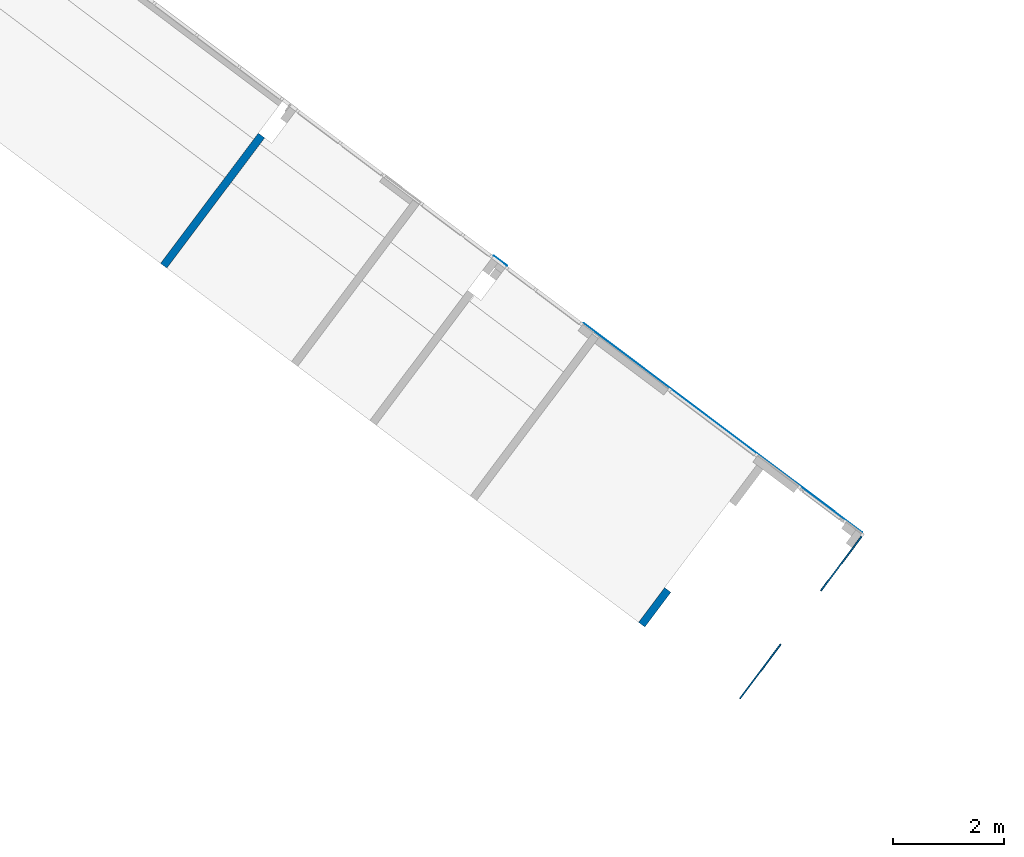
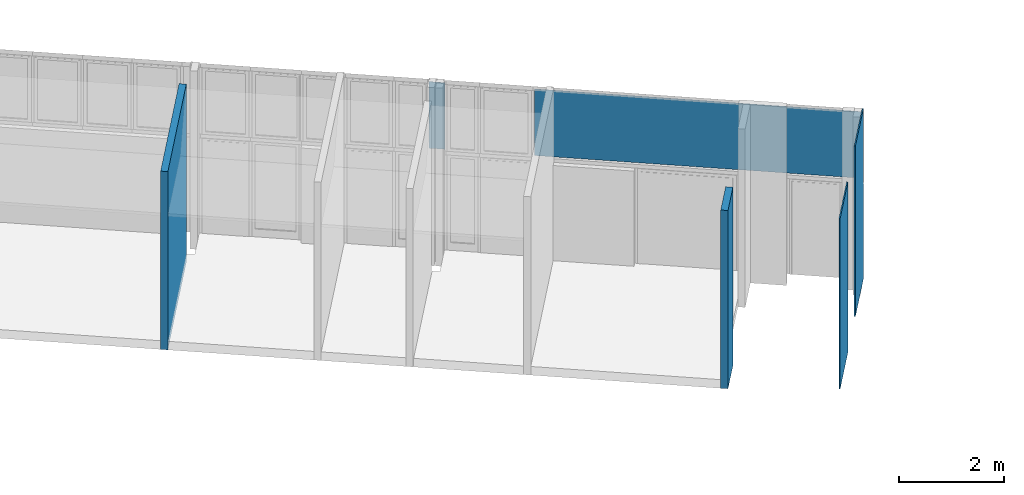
# One storey, part 5 of 18: 4 walls, 2 plates, 1 element without a shape of its own.
"""IFC2X3 building model written with IfcOpenShell, lengths in metres."""

import ifcopenshell
import ifcopenshell.guid

model = None  # the IFC model being written
_history = None  # IfcOwnerHistory: only IFC2X3 demands one
_inside = {}  # id of a spatial element -> (the spatial element, [elements in it])
_under = {}  # id of a project, library or spatial element -> (it, [spatial elements below it])
_declared = {}  # id of a project -> (the project, [libraries it declares])
_typed = {}  # id of a type object -> (the type object, [elements of that type])
_made_of = {}  # id of a material, layer set ... -> (it, [elements and type objects made of it])


def new_model(schema):
    """Start an empty IFC model of exactly this schema.

    Asked for "IFC4X3", IfcOpenShell would pick the latest addendum, in which some entities
    have other attributes; the version numbers below select the first issue.
    IFC2X3 requires an IfcOwnerHistory on every rooted entity: one is made here for all.
    """
    global model, _history
    if schema == "IFC4X3":
        model = ifcopenshell.file(schema_version=(4, 3, 0, 0))
    else:
        model = ifcopenshell.file(schema=schema)
    _inside.clear()
    _under.clear()
    _declared.clear()
    _typed.clear()
    _made_of.clear()
    _history = None
    if model.schema == "IFC2X3":
        org = make("IfcOrganization", Name="unknown")
        user = make(
            "IfcPersonAndOrganization",
            ThePerson=make("IfcPerson", FamilyName="unknown"),
            TheOrganization=org,
        )
        app = make(
            "IfcApplication",
            ApplicationDeveloper=org,
            Version="unknown",
            ApplicationFullName="unknown",
            ApplicationIdentifier="unknown",
        )
        _history = make(
            "IfcOwnerHistory",
            OwningUser=user,
            OwningApplication=app,
            ChangeAction="ADDED",
            CreationDate=0,
        )
    return model


def make(cls, **values):
    """One entity of the class cls with the attributes given. An attribute that is None is left unset."""
    return model.create_entity(
        cls, **{name: value for name, value in values.items() if value is not None}
    )


def entity(cls, *values):
    """Any entity or typed value of the class cls, its attributes in the order of the schema. None: left unset."""
    e = model.create_entity(cls)
    for i, value in enumerate(values):
        if value is not None:
            e[i] = value
    return e


def rooted(cls, **values):
    """An entity with a GlobalId (a new one), such as an element, a storey or a relation."""
    return make(cls, GlobalId=ifcopenshell.guid.new(), OwnerHistory=_history, **values)


def si_unit(unit_type, name, prefix=None):
    """IfcSIUnit, for example si_unit("LENGTHUNIT", "METRE", prefix="MILLI")."""
    return make("IfcSIUnit", UnitType=unit_type, Prefix=prefix, Name=name)


def converted_unit(unit_type, name, factor, base, dimensions=None, offset=None):
    """IfcConversionBasedUnit, such as the inch: factor (a typed value) times the base unit."""
    return make(
        "IfcConversionBasedUnit"
        if offset is None
        else "IfcConversionBasedUnitWithOffset",
        ConversionOffset=offset,
        Dimensions=None
        if dimensions is None
        else entity("IfcDimensionalExponents", *dimensions),
        UnitType=unit_type,
        Name=name,
        ConversionFactor=make(
            "IfcMeasureWithUnit", ValueComponent=factor, UnitComponent=base
        ),
    )


def derived_unit(unit_type, elements):
    """IfcDerivedUnit: a product of units, each with its exponent."""
    return make(
        "IfcDerivedUnit",
        Elements=[
            make("IfcDerivedUnitElement", Unit=unit, Exponent=power)
            for unit, power in elements
        ],
        UnitType=unit_type,
    )


def assignment(units):
    """IfcUnitAssignment: the units of a project."""
    return None if units is None else make("IfcUnitAssignment", Units=units)


def point(xyz):
    """IfcCartesianPoint."""
    return None if xyz is None else make("IfcCartesianPoint", Coordinates=xyz)


def direction(xyz):
    """IfcDirection."""
    return None if xyz is None else make("IfcDirection", DirectionRatios=xyz)


def frame(location, z_axis=None, x_axis=None):
    """IfcAxis2Placement3D, a coordinate frame: its origin and axes. An axis left out is left unset."""
    return make(
        "IfcAxis2Placement3D",
        Location=point(location),
        Axis=direction(z_axis),
        RefDirection=direction(x_axis),
    )


def frame_2d(location, x_axis=None):
    """IfcAxis2Placement2D, a coordinate frame in the plane: its origin and x axis."""
    return make(
        "IfcAxis2Placement2D", Location=point(location), RefDirection=direction(x_axis)
    )


def origin():
    """The frame at (0, 0, 0) with its axes left unset."""
    return frame((0.0, 0.0, 0.0))


def origin_2d_with_axis():
    """The frame at (0, 0) in the plane with the x axis (1, 0) written out."""
    return frame_2d((0.0, 0.0), x_axis=(1.0, 0.0))


def place(relative_to, where):
    """IfcLocalPlacement: puts the frame where relative to a parent placement (None: the world)."""
    return make(
        "IfcLocalPlacement", PlacementRelTo=relative_to, RelativePlacement=where
    )


def context(
    kind, dimensions, precision=None, world=None, true_north=None, identifier=None
):
    """IfcGeometricRepresentationContext, for example the 3D "Model" context."""
    return make(
        "IfcGeometricRepresentationContext",
        ContextIdentifier=identifier,
        ContextType=kind,
        CoordinateSpaceDimension=dimensions,
        Precision=precision,
        WorldCoordinateSystem=world,
        TrueNorth=true_north,
    )


def subcontext(parent, identifier, kind, view, scale=None):
    """IfcGeometricRepresentationSubContext, for example "Body" below "Model"."""
    return make(
        "IfcGeometricRepresentationSubContext",
        ContextIdentifier=identifier,
        ContextType=kind,
        ParentContext=parent,
        TargetScale=scale,
        TargetView=view,
    )


def project(units=None, contexts=None):
    """IfcProject with its units and contexts."""
    return rooted(
        "IfcProject",
        Name="project",
        RepresentationContexts=contexts,
        UnitsInContext=assignment(units),
    )


def spatial(cls, under=None, at=None, **own):
    """A site, building, storey or space (cls), placed at a placement, below another one or the project."""
    s = rooted(cls, ObjectPlacement=at, **own)
    if under is not None:
        _under.setdefault(under.id(), (under, []))[1].append(s)
    return s


def profile(cls, at=None, kind="AREA", **sizes):
    """A parametric profile (cls). Its sizes go by their IFC names, for example OverallWidth=200.0."""
    return make(cls, ProfileType=kind, Position=at, **sizes)


def rectangle(**sizes):
    """IfcRectangleProfileDef."""
    return profile("IfcRectangleProfileDef", **sizes)


def extrude(swept, where, along, depth):
    """IfcExtrudedAreaSolid: the profile swept, set in the frame where, extruded along a direction by depth."""
    return make(
        "IfcExtrudedAreaSolid",
        SweptArea=swept,
        Position=where,
        ExtrudedDirection=direction(along),
        Depth=depth,
    )


def shape(context_of_items, identifier, shape_type, items):
    """IfcShapeRepresentation: the items that make up one representation, for example the "Body"."""
    return make(
        "IfcShapeRepresentation",
        ContextOfItems=context_of_items,
        RepresentationIdentifier=identifier,
        RepresentationType=shape_type,
        Items=items,
    )


def source(mapping_origin, context_of_items, identifier, shape_type, items):
    """IfcRepresentationMap: a shape defined once, which mapped items show again and again."""
    return make(
        "IfcRepresentationMap",
        MappingOrigin=mapping_origin,
        MappedRepresentation=shape(context_of_items, identifier, shape_type, items),
    )


def transform(
    local_origin,
    x_axis=None,
    y_axis=None,
    z_axis=None,
    scale=None,
    scale2=None,
    scale3=None,
    uniform=True,
):
    """IfcCartesianTransformationOperator3D, or its non-uniform kind. x_axis, y_axis, z_axis: its Axis1, 2, 3."""
    if uniform:
        return make(
            "IfcCartesianTransformationOperator3D",
            Axis1=direction(x_axis),
            Axis2=direction(y_axis),
            LocalOrigin=point(local_origin),
            Scale=scale,
            Axis3=direction(z_axis),
        )
    return make(
        "IfcCartesianTransformationOperator3DnonUniform",
        Axis1=direction(x_axis),
        Axis2=direction(y_axis),
        LocalOrigin=point(local_origin),
        Scale=scale,
        Axis3=direction(z_axis),
        Scale2=scale2,
        Scale3=scale3,
    )


def mapped(mapping_source, mapping_target):
    """IfcMappedItem: shows the shape of a source again, moved by a transform."""
    return make(
        "IfcMappedItem", MappingSource=mapping_source, MappingTarget=mapping_target
    )


def material(Name=None, Category=None):
    """IfcMaterial."""
    return make("IfcMaterial", Name=Name, Category=Category)


def layer(
    of_material, thickness, ventilated=None, Name=None, Category=None, Priority=None
):
    """IfcMaterialLayer: one layer of a wall or slab, of a material (None: an air gap)."""
    return make(
        "IfcMaterialLayer",
        Material=of_material,
        LayerThickness=thickness,
        IsVentilated=ventilated,
        Name=Name,
        Category=Category,
        Priority=Priority,
    )


def layer_set(layers, Name=None):
    """IfcMaterialLayerSet."""
    return make("IfcMaterialLayerSet", MaterialLayers=layers, LayerSetName=Name)


def layer_usage(for_layer_set, set_direction, sense, offset, extent=None):
    """IfcMaterialLayerSetUsage: how a layer set lies in its element."""
    return make(
        "IfcMaterialLayerSetUsage",
        ForLayerSet=for_layer_set,
        LayerSetDirection=set_direction,
        DirectionSense=sense,
        OffsetFromReferenceLine=offset,
        ReferenceExtent=extent,
    )


def made_of(thing, what):
    """Note that an element or type object is made of a material, layer set ...; save() writes the relation."""
    if what is not None:
        _made_of.setdefault(what.id(), (what, []))[1].append(thing)
    return thing


def type_object(cls, material=None, **own):
    """A type object (cls), such as IfcWallType, which elements share."""
    return made_of(rooted(cls, **own), material)


def type_shapes(of_type, sources):
    """Give a type object the sources (RepresentationMaps) that its elements show as mapped items."""
    of_type.RepresentationMaps = sources


def element(
    cls,
    number,
    at=None,
    inside=None,
    cuts=None,
    type_object=None,
    material=None,
    context=None,
    identifier="Body",
    shape_type=None,
    held_by="IfcProductDefinitionShape",
    body=None,
    shapes=None,
    **own,
):
    """One element of the class cls, such as IfcWall. Its Tag is "e" and its number.

    at: its placement. inside: the storey or other place that contains it. cuts: it is an
    opening in that element (IfcRelVoidsElement). A single representation is given by context,
    identifier, shape_type and body (its items); several are given by shapes. held_by: the class
    of the entity that holds the representations. save() writes the other relations.
    """
    e = rooted(cls, Tag="e%d" % number, ObjectPlacement=at, **own)
    if body is not None:
        shapes = [shape(context, identifier, shape_type, body)]
    if shapes is not None:
        e.Representation = make(held_by, Representations=shapes)
    if inside is not None:
        _inside.setdefault(inside.id(), (inside, []))[1].append(e)
    if cuts is not None:
        rooted(
            "IfcRelVoidsElement", RelatingBuildingElement=cuts, RelatedOpeningElement=e
        )
    if type_object is not None:
        _typed.setdefault(type_object.id(), (type_object, []))[1].append(e)
    return made_of(e, material)


def aggregate(whole, parts):
    """IfcRelAggregates: a whole, such as a stair, and the parts it consists of."""
    return rooted("IfcRelAggregates", RelatingObject=whole, RelatedObjects=parts)


def save(model, path):
    """Write the relations noted so far, then the file.

    IfcRelAggregates (storeys below a building ...), IfcRelContainedInSpatialStructure (elements
    in a storey), IfcRelDefinesByType, IfcRelAssociatesMaterial and IfcRelDeclares: one each for
    every whole, place, type object, material and project.
    """
    for whole, parts in _under.values():
        aggregate(whole, parts)
    for where, things in _inside.values():
        rooted(
            "IfcRelContainedInSpatialStructure",
            RelatedElements=things,
            RelatingStructure=where,
        )
    for kind, things in _typed.values():
        rooted("IfcRelDefinesByType", RelatedObjects=things, RelatingType=kind)
    for what, things in _made_of.values():
        rooted("IfcRelAssociatesMaterial", RelatedObjects=things, RelatingMaterial=what)
    for by, libraries in _declared.values():
        rooted("IfcRelDeclares", RelatingContext=by, RelatedDefinitions=libraries)
    model.write(path)


model = new_model("IFC2X3")

# Units and contexts
model_context = context("Model", 3, precision=1e-05, world=origin(), true_north=direction((6.123031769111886e-17, 1.0)))
body_context = subcontext(model_context, "Body", "Model", "MODEL_VIEW")
ifc_project = project(units=[si_unit("LENGTHUNIT", "METRE"), si_unit("AREAUNIT", "SQUARE_METRE"), si_unit("VOLUMEUNIT", "CUBIC_METRE"), converted_unit("PLANEANGLEUNIT", "DEGREE", entity("IfcRatioMeasure", 0.017453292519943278), si_unit("PLANEANGLEUNIT", "RADIAN"), dimensions=[0, 0, 0, 0, 0, 0, 0]), si_unit("MASSUNIT", "GRAM", prefix="KILO"), derived_unit("MASSDENSITYUNIT", [(si_unit("MASSUNIT", "GRAM", prefix="KILO"), 1), (si_unit("LENGTHUNIT", "METRE"), -3)]), derived_unit("IONCONCENTRATIONUNIT", [(si_unit("MASSUNIT", "GRAM", prefix="KILO"), 1), (si_unit("LENGTHUNIT", "METRE"), -3)]), derived_unit("MOMENTOFINERTIAUNIT", [(si_unit("LENGTHUNIT", "METRE"), 4)]), si_unit("TIMEUNIT", "SECOND"), si_unit("FREQUENCYUNIT", "HERTZ"), si_unit("THERMODYNAMICTEMPERATUREUNIT", "DEGREE_CELSIUS"), derived_unit("THERMALTRANSMITTANCEUNIT", [(si_unit("MASSUNIT", "GRAM", prefix="KILO"), 1), (si_unit("THERMODYNAMICTEMPERATUREUNIT", "KELVIN"), -1), (si_unit("TIMEUNIT", "SECOND"), -3)]), derived_unit("THERMALCONDUCTANCEUNIT", [(si_unit("MASSUNIT", "GRAM", prefix="KILO"), 1), (si_unit("THERMODYNAMICTEMPERATUREUNIT", "KELVIN"), -1), (si_unit("TIMEUNIT", "SECOND"), -3), (si_unit("LENGTHUNIT", "METRE"), 1)]), derived_unit("VOLUMETRICFLOWRATEUNIT", [(si_unit("LENGTHUNIT", "METRE"), 3), (si_unit("TIMEUNIT", "SECOND"), -1)]), derived_unit("MASSFLOWRATEUNIT", [(si_unit("MASSUNIT", "GRAM", prefix="KILO"), 1), (si_unit("TIMEUNIT", "SECOND"), -1)]), derived_unit("ROTATIONALFREQUENCYUNIT", [(si_unit("TIMEUNIT", "SECOND"), -1)]), si_unit("ELECTRICCURRENTUNIT", "AMPERE"), si_unit("ELECTRICVOLTAGEUNIT", "VOLT"), si_unit("POWERUNIT", "WATT"), si_unit("FORCEUNIT", "NEWTON", prefix="KILO"), si_unit("ILLUMINANCEUNIT", "LUX"), si_unit("LUMINOUSFLUXUNIT", "LUMEN"), si_unit("LUMINOUSINTENSITYUNIT", "CANDELA"), derived_unit("USERDEFINED", [(si_unit("MASSUNIT", "GRAM", prefix="KILO"), -1), (si_unit("LENGTHUNIT", "METRE"), -2), (si_unit("TIMEUNIT", "SECOND"), 3), (si_unit("LUMINOUSFLUXUNIT", "LUMEN"), 1)]), derived_unit("USERDEFINED", [(si_unit("MASSUNIT", "GRAM", prefix="KILO"), 1), (si_unit("TIMEUNIT", "SECOND"), -3), (si_unit("LENGTHUNIT", "METRE"), 3), (si_unit("ELECTRICCURRENTUNIT", "AMPERE"), -2)]), derived_unit("SOUNDPOWERUNIT", [(si_unit("MASSUNIT", "GRAM", prefix="KILO"), 1), (si_unit("TIMEUNIT", "SECOND"), -3), (si_unit("LENGTHUNIT", "METRE"), 2)]), derived_unit("SOUNDPRESSUREUNIT", [(si_unit("MASSUNIT", "GRAM", prefix="KILO"), 1), (si_unit("LENGTHUNIT", "METRE"), -1), (si_unit("TIMEUNIT", "SECOND"), -2)]), derived_unit("LINEARVELOCITYUNIT", [(si_unit("LENGTHUNIT", "METRE"), 1), (si_unit("TIMEUNIT", "SECOND"), -1)]), si_unit("PRESSUREUNIT", "PASCAL"), derived_unit("USERDEFINED", [(si_unit("MASSUNIT", "GRAM", prefix="KILO"), 1), (si_unit("LENGTHUNIT", "METRE"), -2), (si_unit("TIMEUNIT", "SECOND"), -2)]), derived_unit("LINEARFORCEUNIT", [(si_unit("MASSUNIT", "GRAM", prefix="KILO"), 1), (si_unit("TIMEUNIT", "SECOND"), -2)]), derived_unit("PLANARFORCEUNIT", [(si_unit("MASSUNIT", "GRAM", prefix="KILO"), 1), (si_unit("LENGTHUNIT", "METRE"), -1), (si_unit("TIMEUNIT", "SECOND"), -2)]), derived_unit("SPECIFICHEATCAPACITYUNIT", [(si_unit("THERMODYNAMICTEMPERATUREUNIT", "KELVIN"), -1), (si_unit("LENGTHUNIT", "METRE"), 2), (si_unit("TIMEUNIT", "SECOND"), -2)]), derived_unit("HEATINGVALUEUNIT", [(si_unit("LENGTHUNIT", "METRE"), 2), (si_unit("TIMEUNIT", "SECOND"), -2)]), derived_unit("VAPORPERMEABILITYUNIT", [(si_unit("LENGTHUNIT", "METRE"), -1), (si_unit("TIMEUNIT", "SECOND"), 1)]), derived_unit("DYNAMICVISCOSITYUNIT", [(si_unit("MASSUNIT", "GRAM", prefix="KILO"), 1), (si_unit("TIMEUNIT", "SECOND"), -1), (si_unit("LENGTHUNIT", "METRE"), -1)]), derived_unit("THERMALEXPANSIONCOEFFICIENTUNIT", [(si_unit("THERMODYNAMICTEMPERATUREUNIT", "KELVIN"), -1)]), derived_unit("MODULUSOFELASTICITYUNIT", [(si_unit("MASSUNIT", "GRAM", prefix="KILO"), 1), (si_unit("LENGTHUNIT", "METRE"), -1), (si_unit("TIMEUNIT", "SECOND"), -2)]), derived_unit("ISOTHERMALMOISTURECAPACITYUNIT", [(si_unit("LENGTHUNIT", "METRE"), 3), (si_unit("MASSUNIT", "GRAM", prefix="KILO"), -1)]), derived_unit("MOISTUREDIFFUSIVITYUNIT", [(si_unit("TIMEUNIT", "SECOND"), -1), (si_unit("LENGTHUNIT", "METRE"), 2)])], contexts=[model_context])

# Site, building, storey
site_placement = place(None, frame((0.0, 0.0, 235.0), z_axis=(0.0, 0.0, 1.0), x_axis=(-0.7996477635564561, 0.6004693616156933, 0.0)))
site = spatial("IfcSite", under=ifc_project, at=site_placement, Name="Default", CompositionType="ELEMENT")
building_placement = place(site_placement, origin())
building = spatial("IfcBuilding", under=site, at=building_placement, CompositionType="ELEMENT")
storey_placement = place(building_placement, frame((0.0, 0.0, -4.459999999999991)))
storey = spatial("IfcBuildingStorey", under=building, at=storey_placement, Name="PS1- Vestuari", CompositionType="ELEMENT", Elevation=-4.459999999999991)

# Curtain wall, plates
curtain_wall_type = type_object("IfcCurtainWallType", Name="Muro cortina:MC- EXT- AL6", PredefinedType="NOTDEFINED")
curtain_wall_placement = place(storey_placement, frame((0.0, 0.0, 4.459999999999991)))
curtain_wall = element("IfcCurtainWall", 1, at=curtain_wall_placement, inside=storey, type_object=curtain_wall_type, Name="Muro cortina:MC- EXT- AL6", ObjectType="Muro cortina:MC- EXT- AL6")
ifc_material_1 = material(Name="_Alumini- T1- Perfil")
plate_type_1 = type_object("IfcPlateType", Name="PanellMurCortina_Revestiment_Vestuaris:PanellMurCortina_Revestiment_Vestuaris", PredefinedType="CURTAIN_PANEL", material=ifc_material_1)
shared_shape_1 = source(origin(), body_context, "Body", "SweptSolid", [
    extrude(rectangle(XDim=0.004000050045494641, YDim=6.260500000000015, at=origin_2d_with_axis()), frame((3.1302500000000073, 0.0020000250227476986, 0.0), z_axis=(0.0, 0.0, 1.0), x_axis=(0.0, 1.0, 0.0)), (0.0, 0.0, 1.0), 1.5474999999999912),
])
type_shapes(plate_type_1, [shared_shape_1])
plate_1_placement = place(curtain_wall_placement, frame((41.06514768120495, -40.47022143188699, -2.1649999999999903)))
plate_1 = element("IfcPlate", 2, at=plate_1_placement, type_object=plate_type_1, material=ifc_material_1, Name="PanellMurCortina_Revestiment_Vestuaris:PanellMurCortina_Revestiment_Vestuaris", ObjectType="PanellMurCortina_Revestiment_Vestuaris:PanellMurCortina_Revestiment_Vestuaris", context=body_context, shape_type="MappedRepresentation", body=[
    mapped(shared_shape_1, transform((0.0, 0.0, 0.0), scale=1.0)),
])
plate_type_2 = type_object("IfcPlateType", Name="PanellMurCortina_Revestiment_Vestuaris:PanellMurCortina_Revestiment_Vestuaris", PredefinedType="CURTAIN_PANEL", material=ifc_material_1)
shared_shape_2 = source(origin(), body_context, "Body", "SweptSolid", [
    extrude(rectangle(XDim=0.0040000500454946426, YDim=0.3000000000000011, at=frame_2d((-4.336808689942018e-19, 0.0), x_axis=(1.0, 0.0))), frame((0.15000000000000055, 0.0020000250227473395, 0.0), z_axis=(0.0, 0.0, 1.0), x_axis=(0.0, 1.0, 0.0)), (0.0, 0.0, 1.0), 1.5474999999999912),
])
type_shapes(plate_type_2, [shared_shape_2])
plate_2_placement = place(curtain_wall_placement, frame((49.045147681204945, -40.47022143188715, -2.164999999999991)))
plate_2 = element("IfcPlate", 3, at=plate_2_placement, type_object=plate_type_2, material=ifc_material_1, Name="PanellMurCortina_Revestiment_Vestuaris:PanellMurCortina_Revestiment_Vestuaris", ObjectType="PanellMurCortina_Revestiment_Vestuaris:PanellMurCortina_Revestiment_Vestuaris", context=body_context, shape_type="MappedRepresentation", body=[
    mapped(shared_shape_2, transform((0.0, 0.0, 0.0), scale=1.0)),
])
aggregate(curtain_wall, [plate_1, plate_2])

# Walls
ifc_material_2 = material(Name="_Ceràmica- ENV")
ifc_layer_1 = layer(ifc_material_2, 0.14)
ifc_layer_set_1 = layer_set([ifc_layer_1], Name="Muro básico:ENV- Ceràmic- 14 cm")
ifc_layer_usage_1 = layer_usage(ifc_layer_set_1, "AXIS2", "NEGATIVE", 0.07)
wall_type_1 = type_object("IfcWallType", Name="Muro básico:ENV- Ceràmic- 14 cm", PredefinedType="STANDARD", material=ifc_layer_set_1)
wall_1_placement = place(storey_placement, frame((53.975147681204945, -39.69019175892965, -0.2), z_axis=(0.0, 0.0, 1.0), x_axis=(0.0, 1.0, 0.0)))
element("IfcWallStandardCase", 4, at=wall_1_placement, inside=storey, type_object=wall_type_1, material=ifc_layer_usage_1, Name="Muro básico:ENV- Ceràmic- 14 cm", ObjectType="Muro básico:ENV- Ceràmic- 14 cm", context=body_context, shape_type="SweptSolid", body=[
    extrude(rectangle(XDim=2.9250000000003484, YDim=0.14000000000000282, at=frame_2d((1.4625000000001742, 0.0), x_axis=(-1.0, 0.0))), origin(), (0.0, 0.0, 1.0), 4.14),
])
wall_2_placement = place(storey_placement, frame((43.24014768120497, -37.54519175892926, -0.2), z_axis=(0.0, 0.0, 1.0), x_axis=(0.0, 1.0, 0.0)))
element("IfcWallStandardCase", 5, at=wall_2_placement, inside=storey, type_object=wall_type_1, material=ifc_layer_usage_1, Name="Muro básico:ENV- Ceràmic- 14 cm", ObjectType="Muro básico:ENV- Ceràmic- 14 cm", context=body_context, shape_type="SweptSolid", body=[
    extrude(rectangle(XDim=0.7800000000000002, YDim=0.14000000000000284, at=frame_2d((0.3900000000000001, 1.1587952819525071e-15), x_axis=(-1.0, 0.0))), origin(), (0.0, 0.0, 1.0), 4.14),
])
ifc_material_3 = material(Name="_Enrajolat Gresite- REV- PAV")
ifc_layer_2 = layer(ifc_material_3, 0.01)
ifc_material_4 = material(Name="_Morter Base - REV")
ifc_layer_3 = layer(ifc_material_4, 0.015)
ifc_layer_set_2 = layer_set([ifc_layer_2, ifc_layer_3], Name="Muro básico:REV- Enrajolat Gresite- T1- 2,5 cm")
ifc_layer_usage_2 = layer_usage(ifc_layer_set_2, "AXIS2", "NEGATIVE", 0.0125)
wall_type_2 = type_object("IfcWallType", Name="Muro básico:REV- Enrajolat Gresite- T1- 2,5 cm", PredefinedType="STANDARD", material=ifc_layer_set_2)
wall_3_placement = place(storey_placement, frame((41.03264768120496, -40.44019175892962, -0.019999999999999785), z_axis=(0.0, 0.0, 1.0), x_axis=(0.0, 1.0, 0.0)))
element("IfcWallStandardCase", 6, at=wall_3_placement, inside=storey, type_object=wall_type_2, material=ifc_layer_usage_2, Name="Muro básico:REV- Enrajolat Gresite- T1- 2,5 cm", ObjectType="Muro básico:REV- Enrajolat Gresite- T1- 2,5 cm", context=body_context, shape_type="SweptSolid", body=[
    extrude(rectangle(XDim=1.2570018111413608, YDim=0.02499999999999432, at=frame_2d((0.6285009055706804, 1.4814538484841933e-15), x_axis=(-1.0, 0.0))), origin(), (0.0, 0.0, 1.0), 3.9599999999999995),
])
wall_4_placement = place(storey_placement, frame((41.03264768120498, -37.98519175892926, -0.019999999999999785), z_axis=(0.0, 0.0, 1.0), x_axis=(0.0, 1.0, 0.0)))
element("IfcWallStandardCase", 7, at=wall_4_placement, inside=storey, type_object=wall_type_2, material=ifc_layer_usage_2, Name="Muro básico:REV- Enrajolat Gresite- T1- 2,5 cm", ObjectType="Muro básico:REV- Enrajolat Gresite- T1- 2,5 cm", context=body_context, shape_type="SweptSolid", body=[
    extrude(rectangle(XDim=1.22, YDim=0.02499999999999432, at=frame_2d((0.61, 1.438085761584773e-15), x_axis=(-1.0, 0.0))), origin(), (0.0, 0.0, 1.0), 3.9599999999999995),
])

save(model, "model.ifc")
